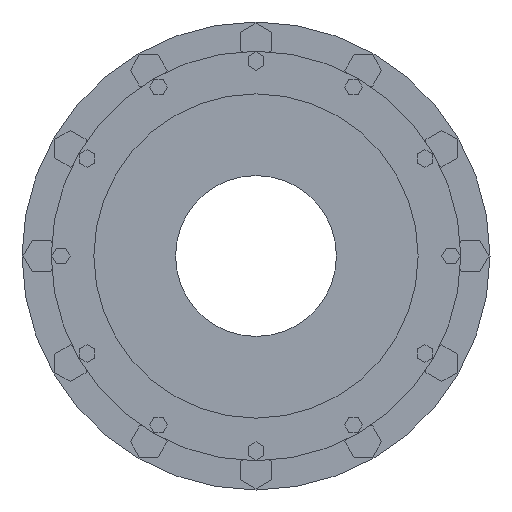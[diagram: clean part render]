
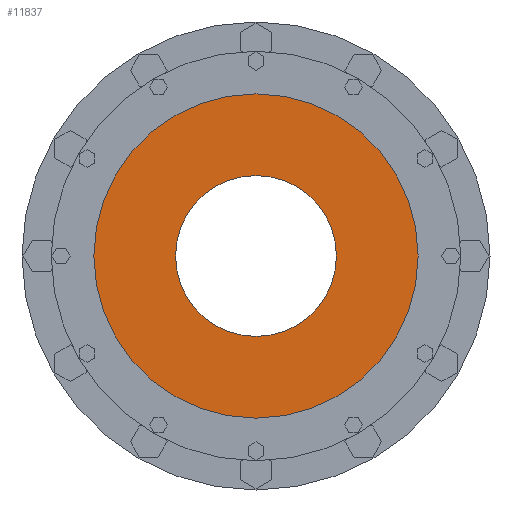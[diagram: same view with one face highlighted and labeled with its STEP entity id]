
A CAD part, left-side view. The second image highlights one B-rep face of the part: STEP entity #11837.
In plain terms, the highlighted planar face has unit normal (-1, 0, 0) as drawn and (1, 0, 0) by its records, which use the part's own axes.
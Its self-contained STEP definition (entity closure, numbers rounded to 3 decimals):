
#11661=CARTESIAN_POINT('',(-12.5,0.,0.));
#11662=DIRECTION('',(1.,0.,0.));
#11663=DIRECTION('',(0.,1.,0.));
#11664=AXIS2_PLACEMENT_3D('',#11661,#11662,#11663);
#11671=CARTESIAN_POINT('',(-12.5,0.,0.));
#11672=DIRECTION('',(-1.,0.,0.));
#11673=DIRECTION('',(0.,1.,0.));
#11674=AXIS2_PLACEMENT_3D('',#11671,#11672,#11673);
#11676=CARTESIAN_POINT('',(-12.5,0.,0.));
#11677=DIRECTION('',(1.,0.,0.));
#11678=DIRECTION('',(0.,1.,0.));
#11679=AXIS2_PLACEMENT_3D('',#11676,#11677,#11678);
#11755=CARTESIAN_POINT('',(-12.5,0.,0.));
#11756=DIRECTION('',(1.,0.,0.));
#11757=DIRECTION('',(0.,-1.,0.));
#11758=AXIS2_PLACEMENT_3D('',#11755,#11756,#11757);
#11782=CARTESIAN_POINT('',(-12.5,332.5,0.));
#11784=VERTEX_POINT('',#11782);
#11786=CARTESIAN_POINT('',(-12.5,-332.5,0.));
#11788=VERTEX_POINT('',#11786);
#11793=CARTESIAN_POINT('',(-12.5,165.,0.));
#11794=CARTESIAN_POINT('',(-12.5,-165.,0.));
#11795=VERTEX_POINT('',#11793);
#11796=VERTEX_POINT('',#11794);
#11821=CARTESIAN_POINT('',(-12.5,0.,0.));
#11822=DIRECTION('',(1.,0.,0.));
#11823=DIRECTION('',(0.,-1.,0.));
#11824=AXIS2_PLACEMENT_3D('',#11821,#11822,#11823);
#11825=PLANE('',#11824);
#11827=ORIENTED_EDGE('',*,*,#11826,.T.);
#11829=ORIENTED_EDGE('',*,*,#11828,.F.);
#11830=EDGE_LOOP('',(#11827,#11829));
#11831=FACE_OUTER_BOUND('',#11830,.F.);
#11832=ORIENTED_EDGE('',*,*,#11810,.T.);
#11834=ORIENTED_EDGE('',*,*,#11833,.T.);
#11835=EDGE_LOOP('',(#11832,#11834));
#11836=FACE_BOUND('',#11835,.F.);
#11837=ADVANCED_FACE('',(#11831,#11836),#11825,.T.);
#11665=CIRCLE('',#11664,165.);
#11675=CIRCLE('',#11674,332.5);
#11680=CIRCLE('',#11679,332.5);
#11759=CIRCLE('',#11758,165.);
#11810=EDGE_CURVE('',#11795,#11796,#11665,.T.);
#11826=EDGE_CURVE('',#11784,#11788,#11675,.T.);
#11828=EDGE_CURVE('',#11784,#11788,#11680,.T.);
#11833=EDGE_CURVE('',#11796,#11795,#11759,.T.);
